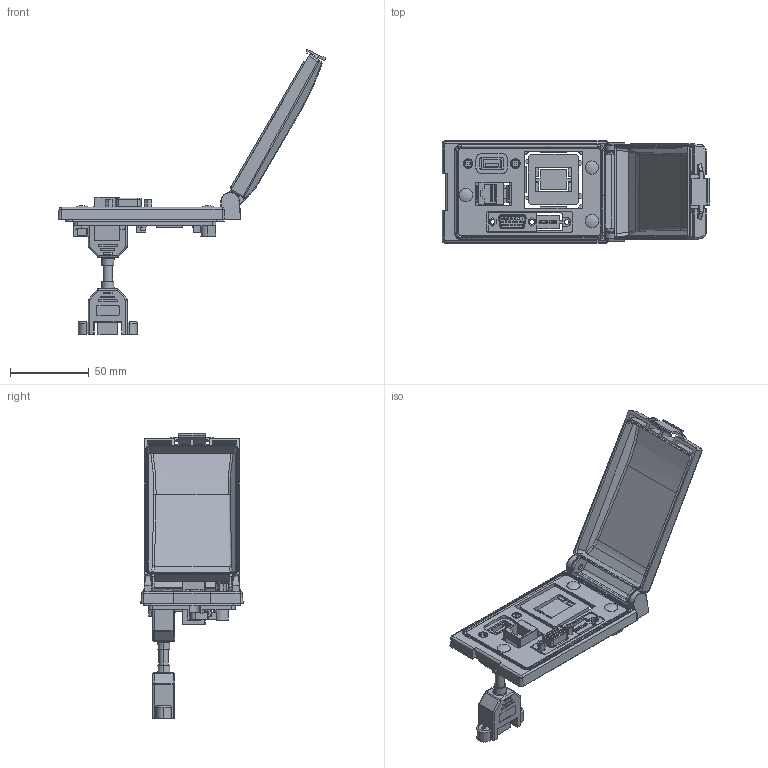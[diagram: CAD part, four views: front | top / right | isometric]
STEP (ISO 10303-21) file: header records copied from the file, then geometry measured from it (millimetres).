
FILE_DESCRIPTION (( 'STEP AP203' ), '1' );
FILE_NAME ('9045415.STEP', '2020-11-24T08:59:41', ( '' ), ( '' ), 'SwSTEP 2.0', 'SolidWorks 2016', '' );
FILE_SCHEMA (( 'CONFIG_CONTROL_DESIGN' ));
Length unit declared in the file: millimetre
Products named in the file (1): 9045415
Bounding box: 169.88 x 65 x 181.03 mm (x, y, z)
Volume: 75281.8 mm3; surface area: 66960.5 mm2
Topology: 7 solids, 9 shells, 2438 faces, 6584 edges, 4205 vertices
Faces by surface type: plane 1362, cylinder 607, bspline 271, cone 101, torus 63, sphere 34
Entity records: 90930 total; most frequent: CARTESIAN_POINT 33303, ORIENTED_EDGE 13062, DIRECTION 10255, EDGE_CURVE 6531, VERTEX_POINT 4199, VECTOR 3801, LINE 3801, AXIS2_PLACEMENT_3D 3227
